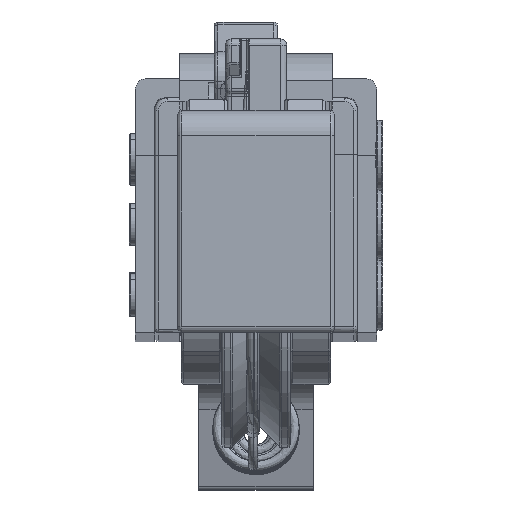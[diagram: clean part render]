
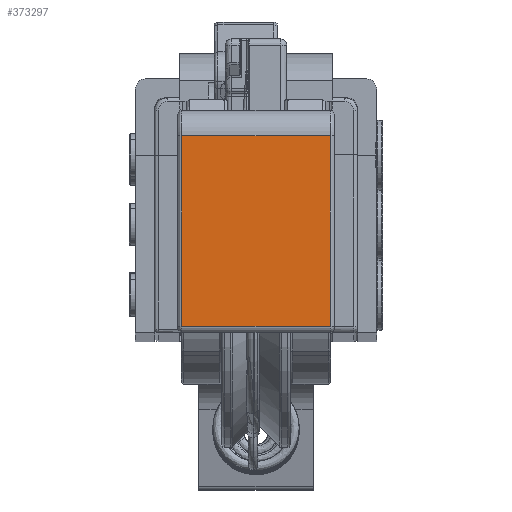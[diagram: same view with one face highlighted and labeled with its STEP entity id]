
A CAD part, top view. The second image highlights one B-rep face of the part: STEP entity #373297.
In plain terms, the highlighted planar face has unit normal (0, 0, 1).
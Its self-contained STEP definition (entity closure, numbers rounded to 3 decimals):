
#1846=DIRECTION('',(1.,0.,0.));
#1847=VECTOR('',#1846,11.7);
#1848=CARTESIAN_POINT('',(-5.85,0.5,-10.));
#1849=LINE('',#1848,#1847);
#1876=DIRECTION('',(0.,-1.,0.));
#1877=VECTOR('',#1876,15.);
#1878=CARTESIAN_POINT('',(5.85,15.5,-10.));
#1879=LINE('',#1878,#1877);
#1883=DIRECTION('',(0.,1.,0.));
#1884=VECTOR('',#1883,15.);
#1885=CARTESIAN_POINT('',(-5.85,0.5,-10.));
#1886=LINE('',#1885,#1884);
#1905=DIRECTION('',(-1.,0.,0.));
#1906=VECTOR('',#1905,11.7);
#1907=CARTESIAN_POINT('',(5.85,15.5,-10.));
#1908=LINE('',#1907,#1906);
#363802=CARTESIAN_POINT('',(-5.85,0.5,-10.));
#363803=VERTEX_POINT('',#363802);
#363816=CARTESIAN_POINT('',(-5.85,15.5,-10.));
#363818=VERTEX_POINT('',#363816);
#364885=CARTESIAN_POINT('',(5.85,0.5,-10.));
#364886=VERTEX_POINT('',#364885);
#364889=CARTESIAN_POINT('',(5.85,15.5,-10.));
#364890=VERTEX_POINT('',#364889);
#373283=CARTESIAN_POINT('',(0.,-12.566,-10.));
#373284=DIRECTION('',(0.,0.,-1.));
#373285=DIRECTION('',(0.,1.,0.));
#373286=AXIS2_PLACEMENT_3D('',#373283,#373284,#373285);
#373287=PLANE('',#373286);
#373289=ORIENTED_EDGE('',*,*,#373288,.F.);
#373291=ORIENTED_EDGE('',*,*,#373290,.T.);
#373292=ORIENTED_EDGE('',*,*,#373266,.F.);
#373294=ORIENTED_EDGE('',*,*,#373293,.T.);
#373295=EDGE_LOOP('',(#373289,#373291,#373292,#373294));
#373296=FACE_OUTER_BOUND('',#373295,.F.);
#373266=EDGE_CURVE('',#363803,#364886,#1849,.T.);
#373288=EDGE_CURVE('',#364890,#363818,#1908,.T.);
#373290=EDGE_CURVE('',#364890,#364886,#1879,.T.);
#373293=EDGE_CURVE('',#363803,#363818,#1886,.T.);
#373297=ADVANCED_FACE('',(#373296),#373287,.F.);
